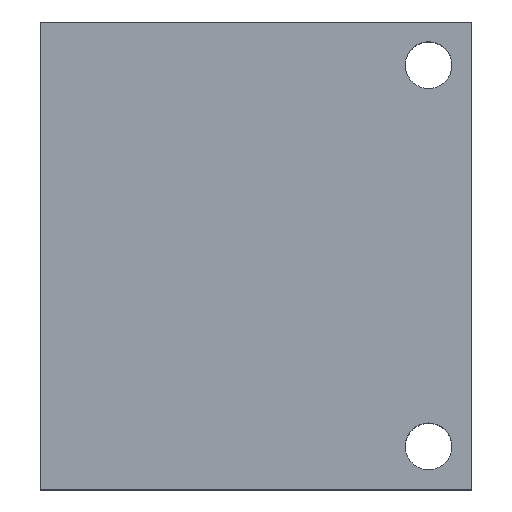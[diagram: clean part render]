
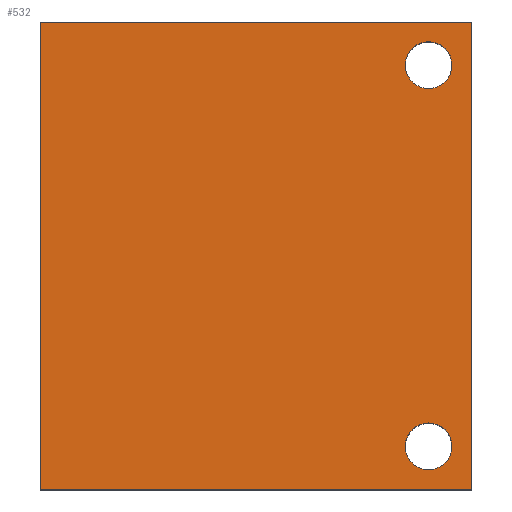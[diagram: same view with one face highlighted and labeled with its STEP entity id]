
A CAD part, top view. The second image highlights one B-rep face of the part: STEP entity #532.
In plain terms, the highlighted planar face has unit normal (0, 0, 1).
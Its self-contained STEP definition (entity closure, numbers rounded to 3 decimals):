
#28=FACE_BOUND('',#116,.T.);
#29=FACE_BOUND('',#117,.T.);
#39=PLANE('',#624);
#77=FACE_OUTER_BOUND('',#115,.T.);
#115=EDGE_LOOP('',(#490,#491,#492,#493));
#116=EDGE_LOOP('',(#494,#495));
#117=EDGE_LOOP('',(#496,#497));
#139=LINE('',#977,#168);
#142=LINE('',#982,#171);
#144=LINE('',#986,#173);
#146=LINE('',#989,#175);
#168=VECTOR('',#784,10.);
#171=VECTOR('',#789,10.);
#173=VECTOR('',#793,10.);
#175=VECTOR('',#797,10.);
#198=CIRCLE('',#587,3.25);
#199=CIRCLE('',#588,3.25);
#201=CIRCLE('',#591,3.25);
#202=CIRCLE('',#592,3.25);
#244=VERTEX_POINT('',#904);
#245=VERTEX_POINT('',#905);
#247=VERTEX_POINT('',#912);
#248=VERTEX_POINT('',#913);
#269=VERTEX_POINT('',#975);
#270=VERTEX_POINT('',#976);
#271=VERTEX_POINT('',#981);
#272=VERTEX_POINT('',#985);
#306=EDGE_CURVE('',#244,#245,#198,.T.);
#307=EDGE_CURVE('',#245,#244,#199,.T.);
#310=EDGE_CURVE('',#247,#248,#201,.T.);
#311=EDGE_CURVE('',#248,#247,#202,.T.);
#340=EDGE_CURVE('',#269,#270,#139,.T.);
#343=EDGE_CURVE('',#270,#271,#142,.T.);
#345=EDGE_CURVE('',#271,#272,#144,.T.);
#347=EDGE_CURVE('',#272,#269,#146,.T.);
#490=ORIENTED_EDGE('',*,*,#340,.F.);
#491=ORIENTED_EDGE('',*,*,#347,.F.);
#492=ORIENTED_EDGE('',*,*,#345,.F.);
#493=ORIENTED_EDGE('',*,*,#343,.F.);
#494=ORIENTED_EDGE('',*,*,#306,.T.);
#495=ORIENTED_EDGE('',*,*,#307,.T.);
#496=ORIENTED_EDGE('',*,*,#310,.T.);
#497=ORIENTED_EDGE('',*,*,#311,.T.);
#532=ADVANCED_FACE('',(#77,#28,#29),#39,.T.);
#587=AXIS2_PLACEMENT_3D('',#906,#704,#705);
#588=AXIS2_PLACEMENT_3D('',#907,#706,#707);
#591=AXIS2_PLACEMENT_3D('',#914,#713,#714);
#592=AXIS2_PLACEMENT_3D('',#915,#715,#716);
#624=AXIS2_PLACEMENT_3D('',#990,#798,#799);
#704=DIRECTION('center_axis',(0.,0.,-1.));
#705=DIRECTION('ref_axis',(1.,0.,0.));
#706=DIRECTION('center_axis',(0.,0.,-1.));
#707=DIRECTION('ref_axis',(1.,0.,0.));
#713=DIRECTION('center_axis',(0.,0.,-1.));
#714=DIRECTION('ref_axis',(1.,0.,0.));
#715=DIRECTION('center_axis',(0.,0.,-1.));
#716=DIRECTION('ref_axis',(1.,0.,0.));
#784=DIRECTION('',(0.,1.,0.));
#789=DIRECTION('',(1.,0.,0.));
#793=DIRECTION('',(0.,-1.,0.));
#797=DIRECTION('',(-1.,0.,0.));
#798=DIRECTION('center_axis',(0.,0.,1.));
#799=DIRECTION('ref_axis',(1.,0.,0.));
#904=CARTESIAN_POINT('',(57.25,59.,20.));
#905=CARTESIAN_POINT('',(50.75,59.,20.));
#906=CARTESIAN_POINT('Origin',(54.,59.,20.));
#907=CARTESIAN_POINT('Origin',(54.,59.,20.));
#912=CARTESIAN_POINT('',(57.25,6.,20.));
#913=CARTESIAN_POINT('',(50.75,6.,20.));
#914=CARTESIAN_POINT('Origin',(54.,6.,20.));
#915=CARTESIAN_POINT('Origin',(54.,6.,20.));
#975=CARTESIAN_POINT('',(0.,0.,20.));
#976=CARTESIAN_POINT('',(0.,65.,20.));
#977=CARTESIAN_POINT('',(0.,65.,20.));
#981=CARTESIAN_POINT('',(60.,65.,20.));
#982=CARTESIAN_POINT('',(60.,65.,20.));
#985=CARTESIAN_POINT('',(60.,0.,20.));
#986=CARTESIAN_POINT('',(60.,0.,20.));
#989=CARTESIAN_POINT('',(0.,0.,20.));
#990=CARTESIAN_POINT('Origin',(30.,32.5,20.));
